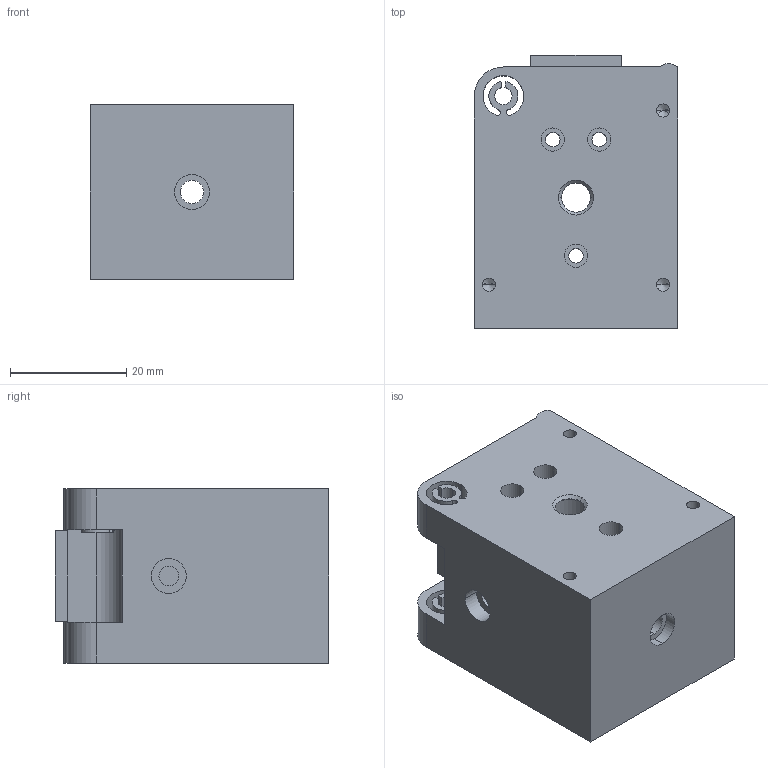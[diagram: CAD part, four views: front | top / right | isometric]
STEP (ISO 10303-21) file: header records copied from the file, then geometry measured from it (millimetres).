
FILE_DESCRIPTION (( 'STEP AP214' ), '1' );
FILE_NAME ('2023-13 - SQUARE CUVETTE HOLDER VARIANT FDM.STEP', '2024-01-24T11:47:03', ( '' ), ( '' ), 'SwSTEP 2.0', 'SolidWorks 2024', '' );
FILE_SCHEMA (( 'AUTOMOTIVE_DESIGN' ));
Length unit declared in the file: millimetre
Products named in the file (1): 2023-13 - SQUARE CUVETTE HOLDER VARIANT FDM
Bounding box: 35 x 47 x 30 mm (x, y, z)
Volume: 37137.8 mm3; surface area: 12202 mm2
Topology: 1 solids, 1 shells, 141 faces, 362 edges, 230 vertices
Faces by surface type: cylinder 88, plane 36, cone 16, torus 1
Entity records: 4361 total; most frequent: DIRECTION 816, CARTESIAN_POINT 740, ORIENTED_EDGE 700, EDGE_CURVE 350, AXIS2_PLACEMENT_3D 326, VERTEX_POINT 230, EDGE_LOOP 188, CIRCLE 184
